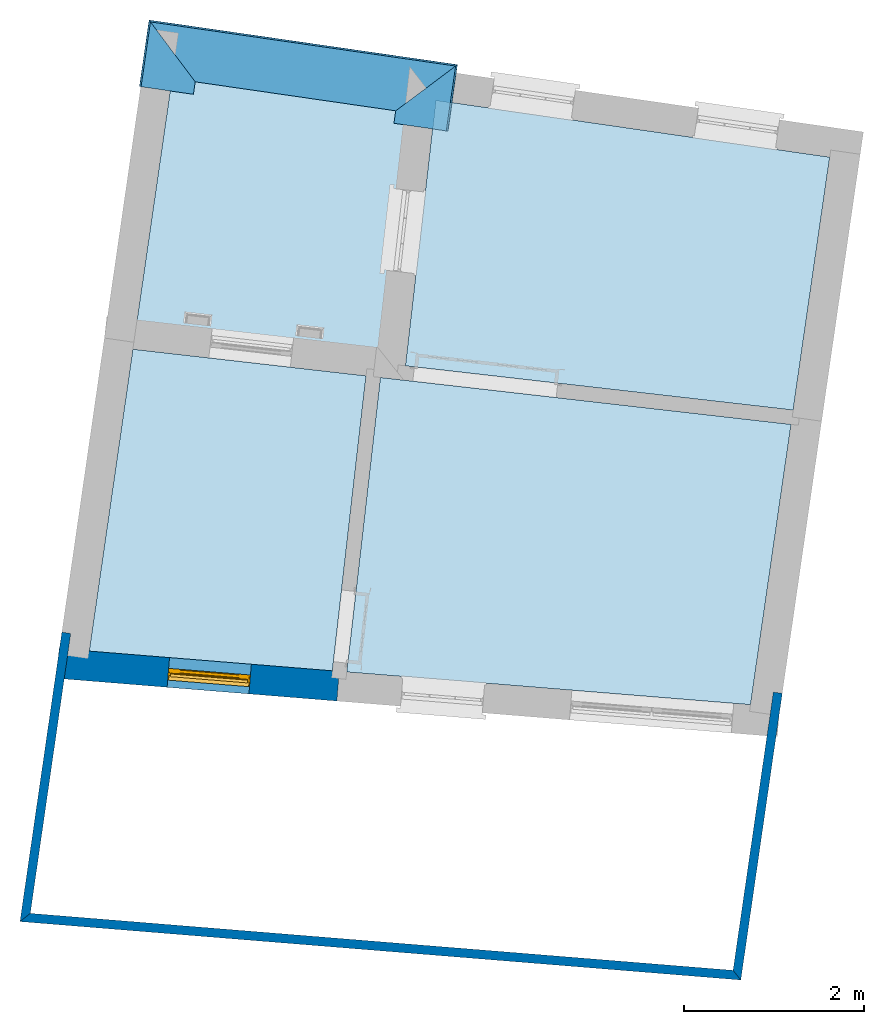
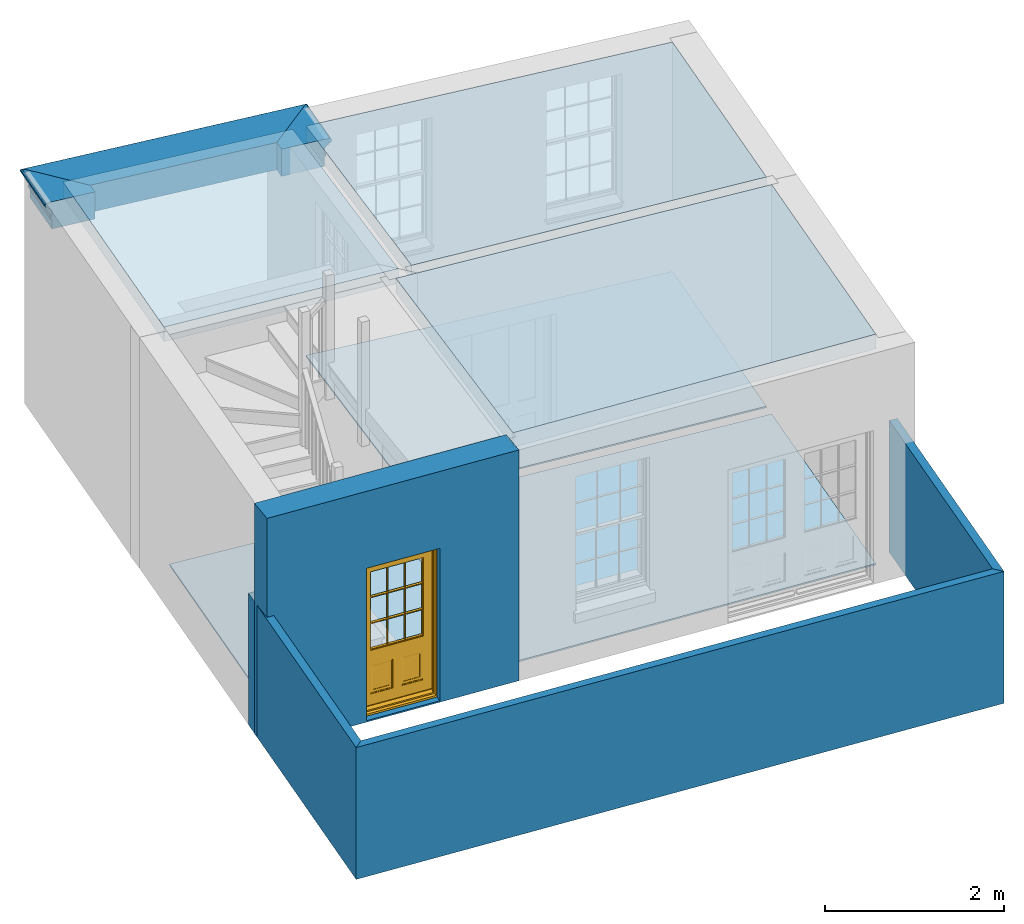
# One storey, part 1 of 8: 6 slabs, 4 walls, 3 beams, 1 door, 1 opening.
"""IFC4 building model written with IfcOpenShell, lengths in metres."""

from ifc_helpers import new_model, si_unit, frame, origin, origin_with_axes, place, context, subcontext, project, spatial, polyline, outline, extrude, clip, halfspace, faceted_brep, source, transform, mapped, material, layer, layer_set, layer_usage, material_profile, profile_set, profile_usage, type_object, type_shapes, element, fill, save


model = new_model("IFC4")

# Units and contexts
model_context = context("Model", 3, world=origin_with_axes())
body_context = subcontext(model_context, "Body", "Model", "MODEL_VIEW")
ifc_project = project(units=[si_unit("PLANEANGLEUNIT", "RADIAN"), si_unit("MASSUNIT", "GRAM", prefix="KILO"), si_unit("FORCEUNIT", "NEWTON", prefix="KILO"), si_unit("LENGTHUNIT", "METRE"), si_unit("AREAUNIT", "SQUARE_METRE"), si_unit("VOLUMEUNIT", "CUBIC_METRE")], contexts=[model_context, model_context])

# Sites, building, storey
site_1_placement = place(None, origin_with_axes())
site_1 = spatial("IfcSite", under=ifc_project, at=site_1_placement, Name="Tamar")
site_2_placement = place(site_1_placement, origin_with_axes())
site_2 = spatial("IfcSite", under=site_1, at=site_2_placement, Name="Site plot-31", CompositionType="ELEMENT")
building_placement = place(None, origin_with_axes())
building = spatial("IfcBuilding", under=site_2, at=building_placement, Name="Building plot-31", CompositionType="ELEMENT")
storey_placement = place(None, frame((0.0, 0.0, 25.5), z_axis=(0.0, 0.0, 1.0), x_axis=(1.0, 0.0, 0.0)))
storey = spatial("IfcBuildingStorey", under=building, at=storey_placement, Name="plot-31 0", CompositionType="ELEMENT", Elevation=25.5)

# Beams
ifc_material_profile = material_profile(None, outline(polyline([(-0.26, 0.0), (-0.26, -0.37), (0.26, -0.37), (0.26, -0.235), (0.275, -0.235), (0.275, -0.2), (0.26, -0.2), (0.26, -0.11), (0.275, -0.11), (0.278, -0.098), (0.284, -0.089), (0.293, -0.083), (0.305, -0.08), (0.305, -0.065), (0.315, -0.065), (0.326, -0.063), (0.336, -0.056), (0.343, -0.047), (0.345, -0.035), (0.343, -0.023), (0.336, -0.014), (0.326, -0.007), (0.315, -0.005), (0.26, 0.0), (-0.26, 0.0)])))
ifc_profile_set = profile_set([ifc_material_profile])
ifc_profile_usage_1 = profile_usage(ifc_profile_set)
beam_type = type_object("IfcBeamType", Name="external beam_0", PredefinedType="NOTDEFINED", material=ifc_profile_set)
beam_1_placement = place(storey_placement, frame((296.386150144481, 265.156598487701, 3.15), z_axis=(-0.143119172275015, -0.989705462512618, 0.0), x_axis=(0.989705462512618, -0.143119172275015, 0.0)))
element("IfcBeam", 1, at=beam_1_placement, inside=storey, type_object=beam_type, material=ifc_profile_usage_1, Name="external beam_0", context=body_context, shape_type="Clipping", body=[
    clip(clip(extrude(outline(polyline([(-0.26, 0.0), (-0.26, -0.37), (0.26, -0.37), (0.26, -0.235), (0.275, -0.235), (0.275, -0.2), (0.26, -0.2), (0.26, -0.11), (0.275, -0.11), (0.278, -0.098), (0.284, -0.089), (0.293, -0.083), (0.305, -0.08), (0.305, -0.065), (0.315, -0.065), (0.326, -0.063), (0.336, -0.056), (0.343, -0.047), (0.345, -0.035), (0.343, -0.023), (0.336, -0.014), (0.326, -0.007), (0.315, -0.005), (0.26, 0.0), (-0.26, 0.0)])), origin_with_axes(), (0.0, 0.0, 1.0), 2.40000000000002), halfspace(frame((0.0, 0.0, 1.40000000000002), z_axis=(4.37965975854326e-15, 0.0, -1.0), x_axis=(0.0, 1.0, 0.0)), True)), halfspace(frame((0.0, 0.0, 1.0), z_axis=(-0.707106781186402, 0.0, -0.707106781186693), x_axis=(0.0, 1.0, 0.0)), False)),
])
ifc_profile_usage_2 = profile_usage(ifc_profile_set)
beam_2_placement = place(storey_placement, frame((292.516296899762, 264.70580800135, 3.15), z_axis=(0.989705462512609, -0.143119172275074, 0.0), x_axis=(0.143119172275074, 0.989705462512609, 0.0)))
element("IfcBeam", 2, at=beam_2_placement, inside=storey, type_object=beam_type, material=ifc_profile_usage_2, Name="external beam_0", context=body_context, shape_type="Clipping", body=[
    clip(clip(extrude(outline(polyline([(-0.26, 0.0), (-0.26, -0.37), (0.26, -0.37), (0.26, -0.235), (0.275, -0.235), (0.275, -0.2), (0.26, -0.2), (0.26, -0.11), (0.275, -0.11), (0.278, -0.098), (0.284, -0.089), (0.293, -0.083), (0.305, -0.08), (0.305, -0.065), (0.315, -0.065), (0.326, -0.063), (0.336, -0.056), (0.343, -0.047), (0.345, -0.035), (0.343, -0.023), (0.336, -0.014), (0.326, -0.007), (0.315, -0.005), (0.26, 0.0), (-0.26, 0.0)])), origin_with_axes(), (0.0, 0.0, 1.0), 4.76549813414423), halfspace(frame((0.0, 0.0, 3.76549813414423), z_axis=(0.707106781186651, 0.0, -0.707106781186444), x_axis=(0.0, 1.0, 0.0)), True)), halfspace(frame((0.0, 0.0, 1.0), z_axis=(-0.707106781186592, 0.0, -0.707106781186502), x_axis=(0.0, 1.0, 0.0)), False)),
])
ifc_profile_usage_3 = profile_usage(ifc_profile_set)
beam_3_placement = place(storey_placement, frame((293.30563552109, 263.177101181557, 3.15), z_axis=(0.143119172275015, 0.989705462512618, 0.0), x_axis=(-0.989705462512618, 0.143119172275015, 0.0)))
element("IfcBeam", 3, at=beam_3_placement, inside=storey, type_object=beam_type, material=ifc_profile_usage_3, Name="external beam_0", context=body_context, shape_type="Clipping", body=[
    clip(clip(extrude(outline(polyline([(-0.26, 0.0), (-0.26, -0.37), (0.26, -0.37), (0.26, -0.235), (0.275, -0.235), (0.275, -0.2), (0.26, -0.2), (0.26, -0.11), (0.275, -0.11), (0.278, -0.098), (0.284, -0.089), (0.293, -0.083), (0.305, -0.08), (0.305, -0.065), (0.315, -0.065), (0.326, -0.063), (0.336, -0.056), (0.343, -0.047), (0.345, -0.035), (0.343, -0.023), (0.336, -0.014), (0.326, -0.007), (0.315, -0.005), (0.26, 0.0), (-0.26, 0.0)])), origin_with_axes(), (0.0, 0.0, 1.0), 2.40000000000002), halfspace(frame((0.0, 0.0, 1.40000000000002), z_axis=(0.707106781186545, 0.0, -0.70710678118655), x_axis=(0.0, 1.0, 0.0)), True)), halfspace(frame((0.0, 0.0, 1.0), z_axis=(4.37965975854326e-15, 0.0, -1.0), x_axis=(0.0, 1.0, 0.0)), False)),
])

# Slabs
slab_1_placement = place(storey_placement, frame((300.758990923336, 263.433017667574, 2.95)))
element("IfcSlab", 4, at=slab_1_placement, inside=storey, Name="My Slab", ObjectType="Slab", PredefinedType="FLOOR", context=body_context, shape_type="SweptSolid", body=[
    extrude(outline(polyline([(0.0, 0.0), (-4.3666555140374, 0.631452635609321), (-4.70296348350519, -2.31255754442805), (-0.405406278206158, -2.80348748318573), (0.0, 0.0)])), origin_with_axes(), (0.0, 0.0, 1.0), 0.2),
])
slab_2_placement = place(storey_placement, frame((300.758990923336, 263.433017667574, 0.0)))
element("IfcSlab", 5, at=slab_2_placement, inside=storey, Name="My Slab", ObjectType="Slab", PredefinedType="FLOOR", context=body_context, shape_type="SweptSolid", body=[
    extrude(outline(polyline([(0.0, 0.0), (-4.3666555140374, 0.631452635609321), (-4.70296348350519, -2.31255754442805), (-0.405406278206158, -2.80348748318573), (0.0, 0.0)])), origin_with_axes(), (0.0, 0.0, 1.0), 0.02),
])
slab_3_placement = place(storey_placement, frame((296.233911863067, 264.087379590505, 2.95)))
element("IfcSlab", 6, at=slab_3_placement, inside=storey, Name="My Slab", ObjectType="Slab", PredefinedType="FLOOR", context=body_context, shape_type="SweptSolid", body=[
    extrude(outline(polyline([(0.0, 0.0), (-2.73935903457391, 0.396132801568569), (-3.17615368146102, -2.62441323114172), (-0.336850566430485, -2.94876002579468), (0.0, 0.0)])), origin_with_axes(), (0.0, 0.0, 1.0), 0.2),
])
slab_4_placement = place(storey_placement, frame((300.330675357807, 260.471106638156, 2.95)))
element("IfcSlab", 7, at=slab_4_placement, inside=storey, Name="My Slab", ObjectType="Slab", PredefinedType="FLOOR", context=body_context, shape_type="SweptSolid", body=[
    extrude(outline(polyline([(0.0, 0.0), (-4.55208858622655, 0.52000624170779), (-4.92496413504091, -2.74411328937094), (-0.449277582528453, -3.10686870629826), (0.0, 0.0)])), origin_with_axes(), (0.0, 0.0, 1.0), 0.2),
])
slab_5_placement = place(storey_placement, frame((300.330675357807, 260.471106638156, 0.0)))
element("IfcSlab", 8, at=slab_5_placement, inside=storey, Name="My Slab", ObjectType="Slab", PredefinedType="FLOOR", context=body_context, shape_type="SweptSolid", body=[
    extrude(outline(polyline([(0.0, 0.0), (-4.55208858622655, 0.52000624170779), (-4.92496413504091, -2.74411328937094), (-0.449277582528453, -3.10686870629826), (0.0, 0.0)])), origin_with_axes(), (0.0, 0.0, 1.0), 0.02),
])
slab_6_placement = place(storey_placement, frame((293.034848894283, 261.304542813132, 0.0)))
element("IfcSlab", 9, at=slab_6_placement, inside=storey, Name="My Slab", ObjectType="Slab", PredefinedType="FLOOR", context=body_context, shape_type="SweptSolid", body=[
    extrude(outline(polyline([(0.0, 0.0), (-0.48388267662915, -3.34617172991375), (2.2112991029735, -3.56461682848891), (2.58477173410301, -0.29527049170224), (0.0, 0.0)])), origin_with_axes(), (0.0, 0.0, 1.0), 0.02),
])

# Wall, opening, door
ifc_material_1 = material(Name="Masonry")
ifc_layer_1 = layer(ifc_material_1, 0.33, ventilated=False)
ifc_layer_set_1 = layer_set([ifc_layer_1], Name="exterior_0.08_0.25")
ifc_layer_usage_1 = layer_usage(ifc_layer_set_1, "AXIS2", "POSITIVE", -0.25)
wall_type_1 = type_object("IfcWallType", Name="exterior_0.08_0.25", PredefinedType="SOLIDWALL", material=ifc_layer_set_1)
wall_1_placement = place(storey_placement, frame((292.459598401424, 257.885514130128, 0.0), z_axis=(0.0, 0.0, 1.0), x_axis=(0.996731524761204, -0.0807853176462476, 0.0)))
wall_1 = element("IfcWall", 10, at=wall_1_placement, inside=storey, type_object=wall_type_1, material=ifc_layer_usage_1, Name="exterior", context=body_context, shape_type="SweptSolid", body=[
    extrude(outline(polyline([(-0.249999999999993, 0.0800000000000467), (-0.25000000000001, -0.249999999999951), (2.86661604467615, -0.249999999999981), (2.86661604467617, 0.0800000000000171), (-0.249999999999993, 0.0800000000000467)])), origin_with_axes(), (0.0, 0.0, 1.0), 3.15),
])
opening_placement = place(wall_1_placement, frame((0.978308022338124, 0.0, 0.0199999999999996)))
opening = element("IfcOpeningElement", 11, at=opening_placement, cuts=wall_1, Name="My Opening", ObjectType="Opening", context=body_context, shape_type="SweptSolid", body=[
    extrude(outline(polyline([(0.0, -0.270000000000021), (0.909999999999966, -0.26999999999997), (0.909999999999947, 1.10000000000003), (-1.97619698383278e-14, 1.09999999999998), (0.0, -0.270000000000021)])), origin_with_axes(), (0.0, 0.0, 1.0), 2.08),
])
door_type = type_object("IfcDoorType", Name="door_panelled", OperationType="SINGLE_SWING_LEFT", PredefinedType="NOTDEFINED")
shared_shape = source(origin(), body_context, "Body", "Brep", [
    faceted_brep([(0.545, 0.195, 0.265), (0.745, 0.195, 0.265), (0.745, 0.2, 0.265), (0.545, 0.2, 0.265), (0.745, 0.2, 0.58), (0.545, 0.2, 0.58), (0.545, 0.195, 0.58), (0.515, 0.19, 0.235), (0.775, 0.19, 0.235), (0.745, 0.195, 0.58), (0.515, 0.19, 0.61), (0.515, 0.185, 0.235), (0.775, 0.185, 0.235), (0.775, 0.19, 0.61), (0.515, 0.185, 0.61), (0.785, 0.185, 0.225), (0.505, 0.185, 0.225), (0.775, 0.185, 0.61), (0.505, 0.185, 0.62), (0.785, 0.185, 0.62), (0.505, 0.18, 0.225), (0.785, 0.18, 0.225), (0.505, 0.18, 0.62), (0.785, 0.18, 0.62), (0.883, 0.18, 0.075), (0.898, 0.18, 0.075), (0.405, 0.18, 0.62), (0.405, 0.18, 0.225), (0.027, 0.18, 0.075), (0.785, 0.18, 0.82), (0.125, 0.18, 0.82), (0.405, 0.185, 0.62), (0.405, 0.185, 0.225), (0.898, 0.18, 2.068), (0.027, 0.17, 0.075), (0.883, 0.17, 0.075), (0.125, 0.18, 0.225), (0.012, 0.18, 0.075), (0.785, 0.19, 0.82), (0.125, 0.19, 0.82), (0.125, 0.18, 0.62), (0.125, 0.185, 0.62), (0.395, 0.185, 0.61), (0.395, 0.185, 0.235), (0.125, 0.185, 0.225), (0.785, 0.18, 1.895), (0.027, 0.14, 0.045), (0.883, 0.14, 0.045), (0.558333, 0.19, 0.83), (0.351667, 0.19, 0.83), (0.125, 0.18, 1.895), (0.125, 0.19, 1.895), (0.785, 0.19, 1.895), (0.012, 0.18, 2.068), (0.135, 0.185, 0.61), (0.395, 0.19, 0.61), (0.395, 0.19, 0.235), (0.135, 0.185, 0.235), (0.027, 0.14, 0.027), (0.883, 0.14, 0.027), (0.568333, 0.19, 0.83), (0.558333, 0.22, 0.83), (0.351667, 0.22, 0.83), (0.341667, 0.19, 0.83), (0.135, 0.19, 1.185), (0.135, 0.19, 1.53), (0.775, 0.19, 1.53), (0.775, 0.19, 1.185), (0.135, 0.19, 0.61), (0.365, 0.195, 0.58), (0.365, 0.195, 0.265), (0.135, 0.19, 0.235), (0.568333, 0.19, 1.175), (0.558333, 0.19, 1.175), (0.775, 0.19, 0.83), (0.558333, 0.22, 1.175), (0.785, 0.22, 0.82), (0.125, 0.22, 0.82), (0.351667, 0.22, 1.175), (0.351667, 0.19, 1.175), (0.341667, 0.19, 1.175), (0.135, 0.19, 0.83), (0.135, 0.19, 1.175), (0.135, 0.22, 1.185), (0.135, 0.22, 1.53), (0.135, 0.19, 1.54), (0.351667, 0.19, 1.885), (0.558333, 0.19, 1.885), (0.775, 0.22, 1.53), (0.775, 0.22, 1.185), (0.775, 0.19, 1.175), (0.775, 0.19, 1.54), (0.165, 0.195, 0.58), (0.365, 0.2, 0.58), (0.365, 0.2, 0.265), (0.165, 0.195, 0.265), (0.568333, 0.22, 0.83), (0.568333, 0.22, 1.175), (0.568333, 0.19, 1.185), (0.558333, 0.19, 1.185), (0.775, 0.22, 0.83), (0.785, 0.23, 0.82), (0.125, 0.23, 0.82), (0.341667, 0.22, 0.83), (0.341667, 0.22, 1.175), (0.351667, 0.19, 1.185), (0.341667, 0.19, 1.185), (0.135, 0.22, 0.83), (0.341667, 0.22, 1.185), (0.125, 0.22, 1.895), (0.341667, 0.22, 1.53), (0.341667, 0.19, 1.53), (0.135, 0.19, 1.885), (0.341667, 0.19, 1.54), (0.341667, 0.19, 1.885), (0.558333, 0.22, 1.885), (0.351667, 0.22, 1.885), (0.568333, 0.19, 1.885), (0.785, 0.22, 1.895), (0.568333, 0.22, 1.185), (0.568333, 0.19, 1.53), (0.568333, 0.22, 1.53), (0.568333, 0.19, 1.54), (0.775, 0.19, 1.885), (0.165, 0.2, 0.58), (0.165, 0.2, 0.265), (0.775, 0.22, 1.175), (0.558333, 0.19, 1.53), (0.351667, 0.22, 1.185), (0.558333, 0.22, 1.185), (0.505, 0.23, 0.62), (0.405, 0.23, 0.62), (0.125, 0.23, 1.895), (0.785, 0.23, 1.895), (0.351667, 0.19, 1.53), (0.135, 0.22, 1.175), (0.135, 0.22, 1.54), (0.341667, 0.22, 1.54), (0.135, 0.22, 1.885), (0.351667, 0.19, 1.54), (0.558333, 0.22, 1.54), (0.558333, 0.19, 1.54), (0.351667, 0.22, 1.54), (0.775, 0.22, 1.54), (0.568333, 0.22, 1.54), (0.775, 0.22, 1.885), (0.558333, 0.22, 1.53), (0.405, 0.23, 0.225), (0.505, 0.23, 0.225), (0.125, 0.23, 0.62), (0.785, 0.23, 0.62), (0.012, 0.23, 2.068), (0.898, 0.23, 2.068), (0.351667, 0.22, 1.53), (0.341667, 0.22, 1.885), (0.568333, 0.22, 1.885), (0.405, 0.225, 0.225), (0.405, 0.225, 0.62), (0.505, 0.225, 0.62), (0.505, 0.225, 0.225), (0.898, 0.23, 0.027), (0.012, 0.23, 0.027), (0.125, 0.225, 0.62), (0.785, 0.225, 0.62), (0.395, 0.225, 0.235), (0.395, 0.225, 0.61), (0.125, 0.23, 0.225), (0.125, 0.225, 0.225), (0.515, 0.225, 0.61), (0.515, 0.225, 0.235), (0.785, 0.23, 0.225), (0.785, 0.225, 0.225), (0.135, 0.225, 0.61), (0.775, 0.225, 0.61), (0.135, 0.225, 0.235), (0.395, 0.22, 0.235), (0.395, 0.22, 0.61), (0.515, 0.22, 0.61), (0.515, 0.22, 0.235), (0.775, 0.225, 0.235), (0.135, 0.22, 0.61), (0.775, 0.22, 0.61), (0.135, 0.22, 0.235), (0.365, 0.215, 0.265), (0.365, 0.215, 0.58), (0.545, 0.215, 0.58), (0.545, 0.215, 0.265), (0.775, 0.22, 0.235), (0.165, 0.215, 0.58), (0.745, 0.215, 0.58), (0.165, 0.215, 0.265), (0.365, 0.21, 0.58), (0.365, 0.21, 0.265), (0.545, 0.21, 0.58), (0.545, 0.21, 0.265), (0.745, 0.215, 0.265), (0.165, 0.21, 0.58), (0.745, 0.21, 0.58), (0.165, 0.21, 0.265), (0.745, 0.21, 0.265), (0.885, 0.178, 0.025), (0.025, 0.178, 0.025), (0.025, 0.15, 0.025), (0.885, 0.15, 0.025), (0.9, 0.23, 0.025), (0.01, 0.23, 0.025), (0.9, 0.178, 0.025), (0.91, 0.23, 0.0), (0.0, 0.23, 0.0), (0.01, 0.178, 0.025), (0.9, 0.178, 2.07), (0.9, 0.23, 2.07), (0.885, 0.178, 2.055), (0.91, 0.23, 2.08), (0.01, 0.23, 2.07), (0.0, 0.23, 2.08), (0.01, 0.178, 2.07), (0.025, 0.178, 2.055), (0.0, 0.1, 2.08), (0.91, 0.1, 2.08), (0.01, 0.1, 2.07), (0.9, 0.1, 2.07), (0.01, 0.15, 2.07), (0.9, 0.15, 2.07), (0.0, 0.1, 0.0), (0.91, 0.1, 0.0), (0.01, 0.1, 0.025), (0.9, 0.1, 0.025), (0.01, 0.15, 0.025), (0.025, 0.15, 2.055), (0.9, 0.15, 0.025), (0.885, 0.15, 2.055), (0.898, 0.18, 0.027), (0.012, 0.18, 0.027), (0.883, 0.18, 0.027), (0.027, 0.18, 0.027)], [[[0, 1, 2, 3]], [[2, 4, 5, 3]], [[0, 3, 5, 6]], [[1, 0, 7, 8]], [[9, 4, 2, 1]], [[9, 6, 5, 4]], [[0, 6, 10, 7]], [[8, 7, 11, 12]], [[8, 13, 9, 1]], [[13, 10, 6, 9]], [[7, 10, 14, 11]], [[15, 12, 11, 16]], [[12, 17, 13, 8]], [[17, 14, 10, 13]], [[18, 16, 11, 14]], [[15, 19, 17, 12]], [[15, 16, 20, 21]], [[14, 17, 19, 18]], [[16, 18, 22, 20]], [[21, 23, 19, 15]], [[24, 25, 21, 20]], [[23, 22, 18, 19]], [[20, 22, 26, 27]], [[23, 21, 25]], [[28, 24, 20, 27]], [[22, 23, 29]], [[29, 30, 26, 22]], [[27, 26, 31, 32]], [[23, 25, 33, 29]], [[34, 35, 24, 28]], [[28, 27, 36, 37]], [[38, 39, 30, 29]], [[26, 30, 40]], [[26, 40, 41, 31]], [[42, 43, 32, 31]], [[32, 44, 36, 27]], [[33, 45, 29]], [[46, 47, 35, 34]], [[36, 40, 37]], [[39, 38, 48, 49]], [[50, 30, 39, 51]], [[29, 45, 52, 38]], [[53, 37, 40, 30]], [[44, 41, 40, 36]], [[31, 41, 54, 42]], [[43, 42, 55, 56]], [[57, 44, 32, 43]], [[50, 45, 33, 53]], [[47, 46, 58, 59]], [[60, 48, 38]], [[49, 48, 61, 62]], [[49, 63, 39]], [[50, 53, 30]], [[51, 39, 64, 65]], [[45, 50, 51, 52]], [[66, 67, 38, 52]], [[57, 54, 41, 44]], [[42, 54, 68, 55]], [[56, 55, 69, 70]], [[56, 71, 57, 43]], [[60, 72, 73, 48]], [[60, 38, 74]], [[48, 73, 75, 61]], [[76, 77, 62, 61]], [[62, 78, 79, 49]], [[49, 79, 80, 63]], [[63, 81, 39]], [[82, 64, 39]], [[65, 64, 83, 84]], [[85, 51, 65]], [[52, 51, 86, 87]], [[88, 89, 67, 66]], [[90, 38, 67]], [[91, 66, 52]], [[71, 68, 54, 57]], [[55, 68, 92, 69]], [[69, 93, 94, 70]], [[70, 95, 71, 56]], [[96, 97, 72, 60]], [[73, 72, 98, 99]], [[74, 38, 90]], [[100, 96, 60, 74]], [[75, 73, 79, 78]], [[61, 75, 97, 96]], [[101, 102, 77, 76]], [[77, 103, 62]], [[96, 76, 61]], [[103, 104, 78, 62]], [[80, 79, 105, 106]], [[63, 80, 104, 103]], [[81, 63, 103, 107]], [[81, 82, 39]], [[106, 64, 82, 80]], [[106, 108, 83, 64]], [[84, 83, 77, 109]], [[110, 111, 65, 84]], [[112, 51, 85]], [[113, 85, 65, 111]], [[114, 86, 51]], [[115, 87, 86, 116]], [[117, 52, 87]], [[118, 76, 89, 88]], [[119, 98, 67, 89]], [[120, 121, 88, 66]], [[67, 98, 72, 90]], [[91, 122, 120, 66]], [[91, 52, 123]], [[95, 92, 68, 71]], [[69, 92, 124, 93]], [[94, 93, 124, 125]], [[94, 125, 95, 70]], [[72, 97, 126, 90]], [[127, 99, 98, 120]], [[99, 105, 79, 73]], [[74, 90, 126, 100]], [[96, 100, 76]], [[128, 129, 75, 78]], [[97, 75, 129, 119]], [[130, 131, 102, 101]], [[109, 77, 102, 132]], [[133, 101, 76, 118]], [[77, 107, 103]], [[78, 104, 108, 128]], [[111, 106, 105, 134]], [[104, 80, 82, 135]], [[107, 135, 82, 81]], [[110, 108, 106, 111]], [[104, 135, 83, 108]], [[83, 135, 77]], [[136, 84, 109]], [[110, 84, 136, 137]], [[114, 51, 112]], [[85, 136, 138, 112]], [[113, 137, 136, 85]], [[111, 134, 139, 113]], [[86, 114, 113, 139]], [[140, 141, 87, 115]], [[139, 142, 116, 86]], [[109, 118, 115, 116]], [[117, 123, 52]], [[117, 87, 141, 122]], [[126, 89, 76]], [[143, 118, 88]], [[120, 98, 119, 121]], [[119, 89, 126, 97]], [[144, 143, 88, 121]], [[144, 122, 91, 143]], [[127, 120, 122, 141]], [[143, 91, 123, 145]], [[124, 92, 95, 125]], [[146, 129, 99, 127]], [[99, 129, 128, 105]], [[100, 126, 76]], [[121, 119, 129, 146]], [[147, 131, 130, 148]], [[131, 149, 102]], [[130, 101, 150]], [[102, 151, 132]], [[118, 109, 132, 133]], [[101, 133, 152]], [[107, 77, 135]], [[153, 128, 108, 110]], [[134, 105, 128, 153]], [[109, 138, 136]], [[153, 110, 137, 142]], [[154, 114, 112, 138]], [[137, 113, 114, 154]], [[141, 139, 134, 127]], [[141, 140, 142, 139]], [[144, 140, 115, 155]], [[142, 137, 154, 116]], [[155, 115, 118]], [[116, 154, 109]], [[117, 155, 145, 123]], [[122, 144, 155, 117]], [[143, 145, 118]], [[121, 146, 140, 144]], [[146, 127, 134, 153]], [[156, 157, 131, 147]], [[148, 130, 158, 159]], [[148, 160, 161, 147]], [[157, 162, 149, 131]], [[161, 151, 102, 149]], [[101, 152, 160, 150]], [[163, 158, 130, 150]], [[151, 152, 133, 132]], [[154, 138, 109]], [[142, 140, 146, 153]], [[145, 155, 118]], [[157, 156, 164, 165]], [[147, 166, 167, 156]], [[168, 169, 159, 158]], [[170, 148, 159, 171]], [[148, 170, 160]], [[166, 147, 161]], [[172, 162, 157, 165]], [[166, 149, 162, 167]], [[166, 161, 149]], [[150, 160, 170]], [[163, 173, 168, 158]], [[171, 163, 150, 170]], [[174, 164, 156, 167]], [[175, 176, 165, 164]], [[169, 168, 177, 178]], [[171, 159, 169, 179]], [[167, 162, 172, 174]], [[176, 180, 172, 165]], [[179, 173, 163, 171]], [[181, 177, 168, 173]], [[164, 174, 182, 175]], [[183, 184, 176, 175]], [[178, 177, 185, 186]], [[179, 169, 178, 187]], [[174, 172, 180, 182]], [[184, 188, 180, 176]], [[187, 181, 173, 179]], [[189, 185, 177, 181]], [[175, 182, 190, 183]], [[191, 184, 183, 192]], [[185, 193, 194, 186]], [[187, 178, 186, 195]], [[182, 180, 188, 190]], [[191, 196, 188, 184]], [[195, 189, 181, 187]], [[197, 193, 185, 189]], [[183, 190, 198, 192]], [[198, 196, 191, 192]], [[194, 193, 197, 199]], [[195, 186, 194, 199]], [[188, 196, 198, 190]], [[197, 189, 195, 199]], [[200, 201, 202, 203]], [[201, 200, 204, 205]], [[206, 204, 200]], [[204, 207, 208, 205]], [[209, 201, 205]], [[210, 211, 204, 206]], [[206, 200, 212, 210]], [[211, 213, 207, 204]], [[214, 205, 208, 215]], [[216, 217, 201, 209]], [[205, 214, 216, 209]], [[216, 214, 211, 210]], [[210, 212, 217, 216]], [[214, 215, 213, 211]], [[218, 219, 213, 215]], [[219, 218, 220, 221]], [[221, 220, 222, 223]], [[215, 208, 224, 218]], [[225, 224, 208, 207]], [[224, 226, 220, 218]], [[224, 225, 227, 226]], [[219, 225, 207, 213]], [[228, 222, 220, 226]], [[219, 221, 227, 225]], [[226, 227, 203, 202]], [[202, 229, 222, 228]], [[228, 226, 202]], [[227, 221, 223, 230]], [[230, 203, 227]], [[217, 229, 202, 201]], [[231, 223, 222, 229]], [[230, 223, 231, 203]], [[231, 229, 217, 212]], [[212, 200, 203, 231]], [[33, 152, 151, 53]], [[25, 160, 152, 33]], [[161, 37, 53, 151]], [[232, 160, 25]], [[161, 233, 37]], [[160, 232, 234]], [[24, 234, 232, 25]], [[233, 161, 235]], [[37, 233, 235, 28]], [[161, 160, 234, 235]], [[35, 47, 234, 24]], [[28, 235, 46, 34]], [[58, 235, 234, 59]], [[59, 234, 47]], [[58, 46, 235]]]),
])
type_shapes(door_type, [shared_shape])
door_placement = place(storey_placement, frame((293.412896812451, 257.537363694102, 0.0199999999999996), z_axis=(0.0, 0.0, 1.0), x_axis=(0.907025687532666, -0.0735146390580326, 0.0)))
door = element("IfcDoor", 12, at=door_placement, inside=storey, type_object=door_type, Name="circulation outside door", OverallHeight=2.08, OverallWidth=0.91, context=body_context, shape_type="MappedRepresentation", body=[
    mapped(shared_shape, transform((0.0, 0.0, 0.0), scale=1.0)),
])
fill(opening, door)

# Walls
ifc_material_2 = material(Name="Masonry")
ifc_layer_2 = layer(ifc_material_2, 0.1, ventilated=False)
ifc_layer_set_2 = layer_set([ifc_layer_2], Name="fence_-0.15_0.25")
ifc_layer_usage_2 = layer_usage(ifc_layer_set_2, "AXIS2", "POSITIVE", -0.25)
wall_type_2 = type_object("IfcWallType", Name="fence_-0.15_0.25", PredefinedType="SOLIDWALL", material=ifc_layer_set_2)
wall_2_placement = place(storey_placement, frame((292.459598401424, 257.885514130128, 0.0), z_axis=(0.0, 0.0, 1.0), x_axis=(-0.143119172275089, -0.989705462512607, 0.0)))
element("IfcWall", 13, at=wall_2_placement, inside=storey, type_object=wall_type_2, material=ifc_layer_usage_2, Name="fence", context=body_context, shape_type="SweptSolid", body=[
    extrude(outline(polyline([(-0.250000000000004, -0.149999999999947), (-0.250000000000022, -0.249999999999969), (2.9918032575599, -0.249999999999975), (2.88532399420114, -0.149999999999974), (-0.250000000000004, -0.149999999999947)])), origin_with_axes(), (0.0, 0.0, 1.0), 1.8),
])
wall_3_placement = place(storey_placement, frame((292.069512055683, 255.187967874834, 0.0), z_axis=(0.0, 0.0, 1.0), x_axis=(0.996731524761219, -0.0807853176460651, 0.0)))
element("IfcWall", 14, at=wall_3_placement, inside=storey, type_object=wall_type_2, material=ifc_layer_usage_2, Name="fence", context=body_context, shape_type="SweptSolid", body=[
    extrude(outline(polyline([(-0.159718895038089, -0.149999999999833), (-0.266198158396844, -0.249999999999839), (7.74957236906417, -0.250000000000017), (7.65565736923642, -0.149999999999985), (-0.159718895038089, -0.149999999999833)])), origin_with_axes(), (0.0, 0.0, 1.0), 1.8),
])
wall_4_placement = place(storey_placement, frame((299.559735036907, 254.58088359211, 0.0), z_axis=(0.0, 0.0, 1.0), x_axis=(0.143119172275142, 0.989705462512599, 0.0)))
element("IfcWall", 15, at=wall_4_placement, inside=storey, type_object=wall_type_2, material=ifc_layer_usage_2, Name="fence", context=body_context, shape_type="SweptSolid", body=[
    extrude(outline(polyline([(-0.140872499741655, -0.150000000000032), (-0.23478749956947, -0.250000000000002), (2.97560509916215, -0.250000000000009), (2.97560509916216, -0.149999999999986), (-0.140872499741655, -0.150000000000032)])), origin_with_axes(), (0.0, 0.0, 1.0), 1.8),
])

save(model, "model.ifc")
